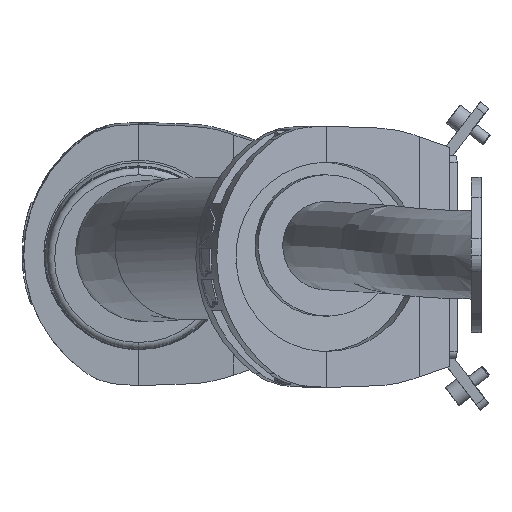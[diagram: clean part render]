
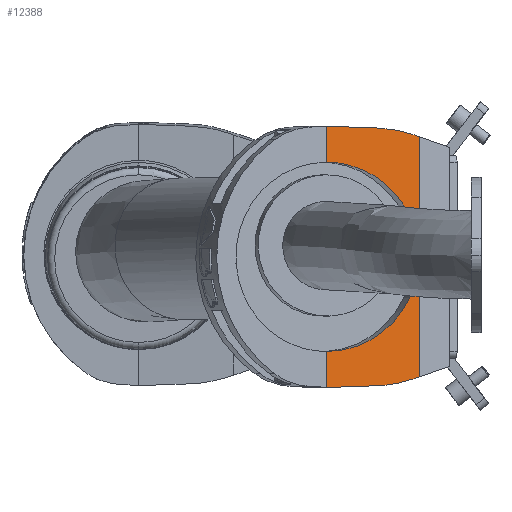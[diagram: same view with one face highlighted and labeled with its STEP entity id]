
A CAD part, left-side view. The second image highlights one B-rep face of the part: STEP entity #12388.
In plain terms, the highlighted planar face has unit normal (-0.974, -0.225, 0).
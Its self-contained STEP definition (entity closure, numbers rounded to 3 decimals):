
#632 = ORIENTED_EDGE ( 'NONE', *, *, #14186, .F. ) ;
#1012 = ORIENTED_EDGE ( 'NONE', *, *, #3235, .F. ) ;
#1388 = LINE ( 'NONE', #17746, #7639 ) ;
#1789 = CARTESIAN_POINT ( 'NONE',  ( 1098.419, 134.216, 2077.595 ) ) ;
#1807 = VECTOR ( 'NONE', #19326, 1000. ) ;
#2437 = ORIENTED_EDGE ( 'NONE', *, *, #7174, .F. ) ;
#2559 = LINE ( 'NONE', #10943, #1807 ) ;
#2597 = ORIENTED_EDGE ( 'NONE', *, *, #4455, .F. ) ;
#2618 = LINE ( 'NONE', #11002, #14968 ) ;
#3218 = EDGE_CURVE ( 'NONE', #12779, #5067, #25410, .T. ) ;
#3235 = EDGE_CURVE ( 'NONE', #19091, #4904, #13860, .T. ) ;
#3327 = CARTESIAN_POINT ( 'NONE',  ( 1095.226, 148.045, 2076.083 ) ) ;
#3364 = CARTESIAN_POINT ( 'NONE',  ( 1100.798, 123.909, 2081.098 ) ) ;
#3460 = EDGE_CURVE ( 'NONE', #14242, #15952, #12054, .T. ) ;
#4207 = VECTOR ( 'NONE', #6759, 1000. ) ;
#4455 = EDGE_CURVE ( 'NONE', #15952, #12779, #1388, .T. ) ;
#4904 = VERTEX_POINT ( 'NONE', #24472 ) ;
#5067 = VERTEX_POINT ( 'NONE', #7751 ) ;
#5741 = CARTESIAN_POINT ( 'NONE',  ( 1087.595, 181.099, 2249.062 ) ) ;
#6355 = CARTESIAN_POINT ( 'NONE',  ( 1099.629, 128.973, 2079.377 ) ) ;
#6655 = CARTESIAN_POINT ( 'NONE',  ( 1088.644, 176.557, 2202.662 ) ) ;
#6734 = ORIENTED_EDGE ( 'NONE', *, *, #3218, .F. ) ;
#6759 = DIRECTION ( 'NONE',  ( -0.214, 0.925, -0.314 ) ) ;
#6785 = CARTESIAN_POINT ( 'NONE',  ( 1095.329, 147.6, 2202.662 ) ) ;
#7174 = EDGE_CURVE ( 'NONE', #17587, #14768, #9399, .T. ) ;
#7182 = DIRECTION ( 'NONE',  ( 0.214, -0.925, -0.314 ) ) ;
#7331 = EDGE_CURVE ( 'NONE', #23958, #26559, #17178, .T. ) ;
#7333 =( BOUNDED_CURVE ( )  B_SPLINE_CURVE ( 3, ( #24762, #1789, #10162, #18546 ),
 .UNSPECIFIED., .F., .F. ) 
 B_SPLINE_CURVE_WITH_KNOTS ( ( 4, 4 ),
 ( 1.251, 1.536 ),
 .UNSPECIFIED. ) 
 CURVE ( )  GEOMETRIC_REPRESENTATION_ITEM ( )  RATIONAL_B_SPLINE_CURVE ( ( 1., 0.993, 0.993, 1. ) ) 
 REPRESENTATION_ITEM ( '' )  );
#7570 = CARTESIAN_POINT ( 'NONE',  ( 1099.947, 127.598, 2218.28 ) ) ;
#7639 = VECTOR ( 'NONE', #21822, 1000. ) ;
#7751 = CARTESIAN_POINT ( 'NONE',  ( 1099.947, 127.598, 2218.28 ) ) ;
#8451 = CARTESIAN_POINT ( 'NONE',  ( 1100.217, 126.428, 2182.4 ) ) ;
#8576 = CARTESIAN_POINT ( 'NONE',  ( 1100.798, 123.909, 2217.026 ) ) ;
#9263 = CARTESIAN_POINT ( 'NONE',  ( 1088.644, 176.557, 2095.462 ) ) ;
#9399 =( BOUNDED_CURVE ( )  B_SPLINE_CURVE ( 3, ( #9263, #17625, #25907, #23869 ),
 .UNSPECIFIED., .F., .T. ) 
 B_SPLINE_CURVE_WITH_KNOTS ( ( 4, 4 ),
 ( 1.571, 3.211 ),
 .UNSPECIFIED. ) 
 CURVE ( )  GEOMETRIC_REPRESENTATION_ITEM ( )  RATIONAL_B_SPLINE_CURVE ( ( 1., 0.788, 0.788, 1. ) ) 
 REPRESENTATION_ITEM ( '' )  );
#9596 = DIRECTION ( 'NONE',  ( 0.225, -0.974, 0. ) ) ;
#9602 = CARTESIAN_POINT ( 'NONE',  ( 1096.835, 141.078, 2221.791 ) ) ;
#10162 = CARTESIAN_POINT ( 'NONE',  ( 1096.835, 141.078, 2076.333 ) ) ;
#10943 = CARTESIAN_POINT ( 'NONE',  ( 1100.798, 123.909, 2249.062 ) ) ;
#11002 = CARTESIAN_POINT ( 'NONE',  ( 1099.629, 128.973, 2218.747 ) ) ;
#11068 = CARTESIAN_POINT ( 'NONE',  ( 1088.644, 176.557, 2223.062 ) ) ;
#11336 = EDGE_CURVE ( 'NONE', #26559, #19091, #7333, .T. ) ;
#11802 = EDGE_CURVE ( 'NONE', #19263, #23958, #2559, .T. ) ;
#11919 = DIRECTION ( 'NONE',  ( 0., 0., 1. ) ) ;
#12054 = LINE ( 'NONE', #20397, #13769 ) ;
#12212 = CARTESIAN_POINT ( 'NONE',  ( 1095.226, 148.045, 2222.041 ) ) ;
#12388 = ADVANCED_FACE ( 'NONE', ( #13587 ), #26518, .F. ) ;
#12779 = VERTEX_POINT ( 'NONE', #18082 ) ;
#12882 = CARTESIAN_POINT ( 'NONE',  ( 1100.679, 124.424, 2152.77 ) ) ;
#13587 = FACE_OUTER_BOUND ( 'NONE', #17191, .T. ) ;
#13769 = VECTOR ( 'NONE', #11919, 1000. ) ;
#13860 = LINE ( 'NONE', #16182, #24574 ) ;
#14186 = EDGE_CURVE ( 'NONE', #4904, #17587, #17934, .T. ) ;
#14242 = VERTEX_POINT ( 'NONE', #26215 ) ;
#14320 = CARTESIAN_POINT ( 'NONE',  ( 1088.644, 176.557, 2095.462 ) ) ;
#14768 = VERTEX_POINT ( 'NONE', #12882 ) ;
#14968 = VECTOR ( 'NONE', #7182, 1000. ) ;
#15572 = ORIENTED_EDGE ( 'NONE', *, *, #24374, .F. ) ;
#15952 = VERTEX_POINT ( 'NONE', #11068 ) ;
#15973 = ORIENTED_EDGE ( 'NONE', *, *, #11336, .F. ) ;
#16182 = CARTESIAN_POINT ( 'NONE',  ( 1088.306, 178.021, 2075.01 ) ) ;
#17178 = LINE ( 'NONE', #6355, #4207 ) ;
#17191 = EDGE_LOOP ( 'NONE', ( #2437, #632, #1012, #15973, #23731, #26460, #20486, #6734, #2597, #19906, #15572 ) ) ;
#17587 = VERTEX_POINT ( 'NONE', #14320 ) ;
#17625 = CARTESIAN_POINT ( 'NONE',  ( 1096.105, 144.237, 2095.462 ) ) ;
#17746 = CARTESIAN_POINT ( 'NONE',  ( 1094.88, 149.544, 2222.095 ) ) ;
#17819 =( BOUNDED_CURVE ( )  B_SPLINE_CURVE ( 3, ( #23186, #8451, #6785, #6655 ),
 .UNSPECIFIED., .F., .T. ) 
 B_SPLINE_CURVE_WITH_KNOTS ( ( 4, 4 ),
 ( 3.211, 4.712 ),
 .UNSPECIFIED. ) 
 CURVE ( )  GEOMETRIC_REPRESENTATION_ITEM ( )  RATIONAL_B_SPLINE_CURVE ( ( 1., 0.821, 0.821, 1. ) ) 
 REPRESENTATION_ITEM ( '' )  );
#17934 = LINE ( 'NONE', #26476, #21550 ) ;
#17979 = CARTESIAN_POINT ( 'NONE',  ( 1098.419, 134.216, 2220.529 ) ) ;
#18082 = CARTESIAN_POINT ( 'NONE',  ( 1095.226, 148.045, 2222.041 ) ) ;
#18546 = CARTESIAN_POINT ( 'NONE',  ( 1095.226, 148.045, 2076.083 ) ) ;
#19091 = VERTEX_POINT ( 'NONE', #3327 ) ;
#19193 = DIRECTION ( 'NONE',  ( -0.225, 0.974, -0.035 ) ) ;
#19263 = VERTEX_POINT ( 'NONE', #8576 ) ;
#19326 = DIRECTION ( 'NONE',  ( 0., 0., -1. ) ) ;
#19906 = ORIENTED_EDGE ( 'NONE', *, *, #3460, .F. ) ;
#20397 = CARTESIAN_POINT ( 'NONE',  ( 1088.644, 176.557, 2223.062 ) ) ;
#20486 = ORIENTED_EDGE ( 'NONE', *, *, #22720, .F. ) ;
#21550 = VECTOR ( 'NONE', #26079, 1000. ) ;
#21822 = DIRECTION ( 'NONE',  ( 0.225, -0.974, -0.035 ) ) ;
#22720 = EDGE_CURVE ( 'NONE', #5067, #19263, #2618, .T. ) ;
#23186 = CARTESIAN_POINT ( 'NONE',  ( 1100.679, 124.424, 2152.77 ) ) ;
#23731 = ORIENTED_EDGE ( 'NONE', *, *, #7331, .F. ) ;
#23869 = CARTESIAN_POINT ( 'NONE',  ( 1100.679, 124.424, 2152.77 ) ) ;
#23958 = VERTEX_POINT ( 'NONE', #3364 ) ;
#24178 = AXIS2_PLACEMENT_3D ( 'NONE', #5741, #26256, #9596 ) ;
#24374 = EDGE_CURVE ( 'NONE', #14768, #14242, #17819, .T. ) ;
#24472 = CARTESIAN_POINT ( 'NONE',  ( 1088.644, 176.557, 2075.062 ) ) ;
#24574 = VECTOR ( 'NONE', #19193, 1000. ) ;
#24762 = CARTESIAN_POINT ( 'NONE',  ( 1099.947, 127.598, 2079.844 ) ) ;
#25410 =( BOUNDED_CURVE ( )  B_SPLINE_CURVE ( 3, ( #12212, #9602, #17979, #7570 ),
 .UNSPECIFIED., .F., .T. ) 
 B_SPLINE_CURVE_WITH_KNOTS ( ( 4, 4 ),
 ( 4.747, 5.032 ),
 .UNSPECIFIED. ) 
 CURVE ( )  GEOMETRIC_REPRESENTATION_ITEM ( )  RATIONAL_B_SPLINE_CURVE ( ( 1., 0.993, 0.993, 1. ) ) 
 REPRESENTATION_ITEM ( '' )  );
#25652 = CARTESIAN_POINT ( 'NONE',  ( 1099.947, 127.598, 2079.844 ) ) ;
#25907 = CARTESIAN_POINT ( 'NONE',  ( 1101.196, 122.188, 2119.7 ) ) ;
#26079 = DIRECTION ( 'NONE',  ( 0., 0., 1. ) ) ;
#26215 = CARTESIAN_POINT ( 'NONE',  ( 1088.644, 176.557, 2202.662 ) ) ;
#26256 = DIRECTION ( 'NONE',  ( 0.974, 0.225, 0. ) ) ;
#26460 = ORIENTED_EDGE ( 'NONE', *, *, #11802, .F. ) ;
#26476 = CARTESIAN_POINT ( 'NONE',  ( 1088.644, 176.557, 2223.062 ) ) ;
#26518 = PLANE ( 'NONE',  #24178 ) ;
#26559 = VERTEX_POINT ( 'NONE', #25652 ) ;
